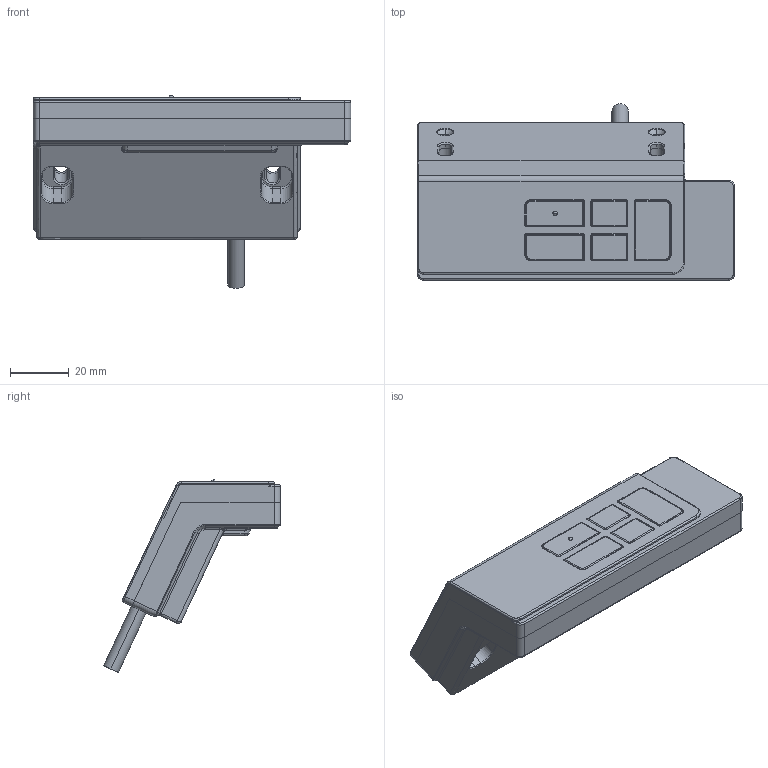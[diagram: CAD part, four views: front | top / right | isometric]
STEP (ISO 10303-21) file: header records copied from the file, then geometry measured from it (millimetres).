
FILE_DESCRIPTION (( 'STEP AP203' ), '1' );
FILE_NAME ('3D_TDH31P.STEP', '2022-09-08T03:00:22', ( '' ), ( '' ), 'SwSTEP 2.0', 'SolidWorks 2015', '' );
FILE_SCHEMA (( 'CONFIG_CONTROL_DESIGN' ));
Products named in the file (1): 3D_TDH31P
Bounding box: 108 x 60.16 x 65.66 mm (x, y, z)
Volume: 49029 mm3; surface area: 59987.6 mm2
Topology: 13 solids, 13 shells, 2107 faces, 5563 edges, 3462 vertices
Faces by surface type: plane 1096, cylinder 711, torus 142, cone 71, sphere 60, bspline 27
Entity records: 65036 total; most frequent: CARTESIAN_POINT 12649, ORIENTED_EDGE 11008, DIRECTION 10984, EDGE_CURVE 5504, VECTOR 3724, LINE 3724, AXIS2_PLACEMENT_3D 3630, VERTEX_POINT 3461
